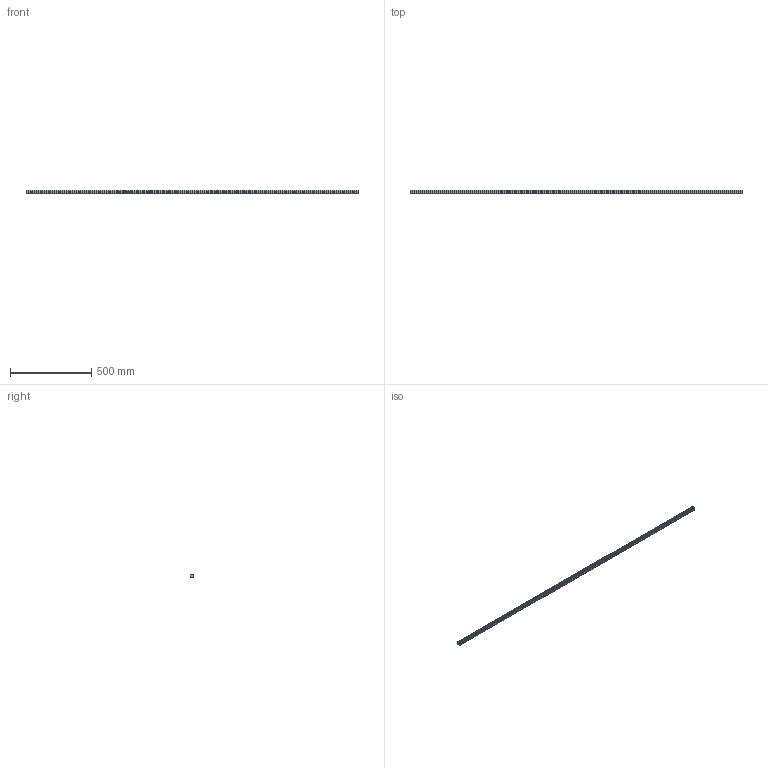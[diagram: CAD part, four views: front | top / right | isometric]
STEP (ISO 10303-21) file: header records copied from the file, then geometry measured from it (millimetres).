
FILE_DESCRIPTION (( 'STEP AP203' ), '1' );
FILE_NAME ('L1018.20R-2040.step', '2023-08-06T09:11:00', ( '' ), ( '' ), 'SwSTEP 2.0', 'SolidWorks 2019', '' );
FILE_SCHEMA (( 'CONFIG_CONTROL_DESIGN' ));
Length unit declared in the file: millimetre
Products named in the file (1): L1018.20R-2040
Bounding box: 2040 x 19.3 x 20 mm (x, y, z)
Volume: 646941.7 mm3; surface area: 172807.9 mm2
Topology: 1 solids, 1 shells, 335 faces, 761 edges, 428 vertices
Faces by surface type: cylinder 139, cone 136, plane 60
Entity records: 8954 total; most frequent: DIRECTION 1711, CARTESIAN_POINT 1457, ORIENTED_EDGE 1386, EDGE_CURVE 693, AXIS2_PLACEMENT_3D 682, VERTEX_POINT 428, EDGE_LOOP 403, VECTOR 347
